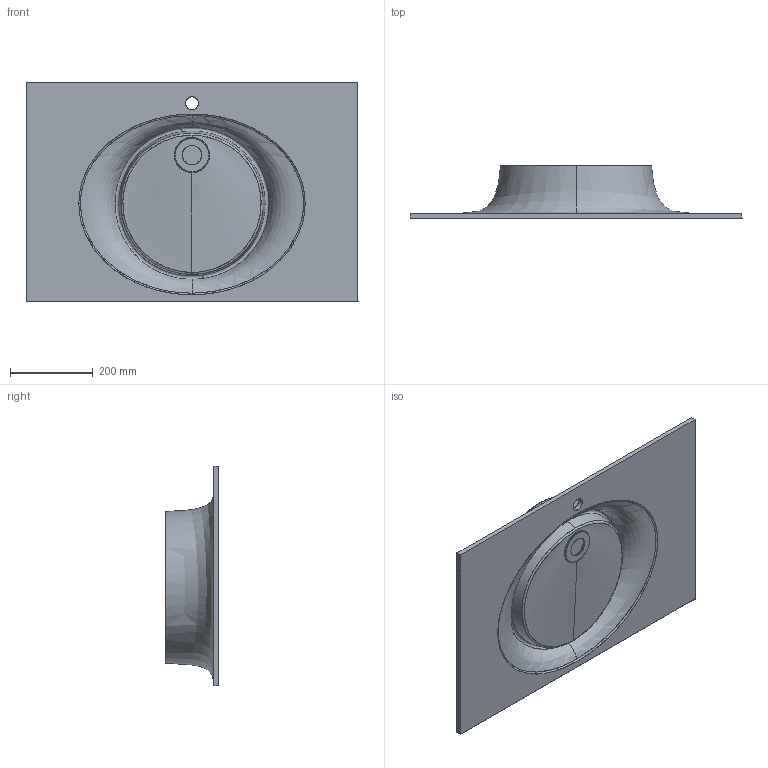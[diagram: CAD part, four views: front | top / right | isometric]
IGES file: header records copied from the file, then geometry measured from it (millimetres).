
Start section: SolidWorks IGES file using analytic representation for surfaces
Global section: file name: C:\Users\PC Lite\Desktop\2D_3D-PACKAGE\PAA-Washbasins-Alba-35\PAA-Wahsbasins-Silkstone-Alba-ON-35-IALBSON35-XX-3D.IGS; native system: SolidWorks 2018; preprocessor: SolidWorks 2018; author: PC Lite; date: 250308.195037; units: millimetre
Bounding box: 800 x 128.27 x 530 mm (x, y, z)
Surface area: 1300884.3 mm2 (no closed solid volume)
Topology: 0 solids, 0 shells, 106 faces, 2358 edges, 2352 vertices
Faces by surface type: bspline 70, revolution 36
